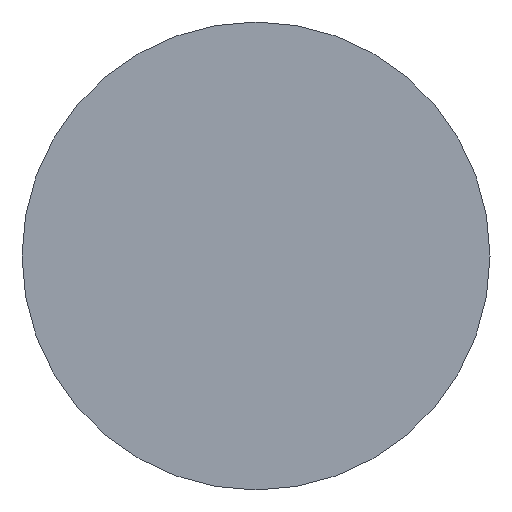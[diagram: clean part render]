
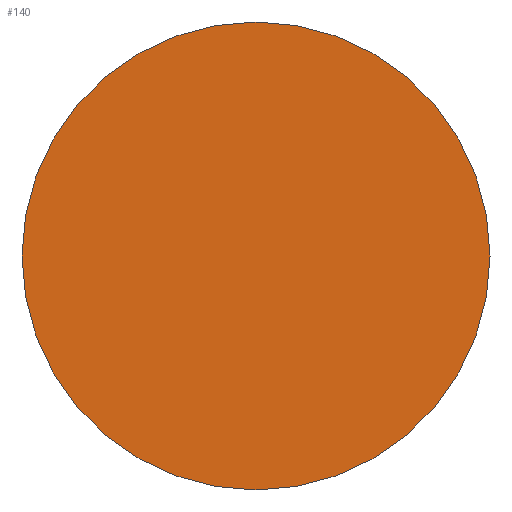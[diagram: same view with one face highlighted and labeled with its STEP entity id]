
A CAD part, left-side view. The second image highlights one B-rep face of the part: STEP entity #140.
In plain terms, the highlighted planar face has unit normal (-1, 0, 0).
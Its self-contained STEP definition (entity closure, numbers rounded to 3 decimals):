
#31 = CYLINDRICAL_SURFACE('',#32,1.8);
#32 = AXIS2_PLACEMENT_3D('',#33,#34,#35);
#33 = CARTESIAN_POINT('',(-8.7,-16.2,-1.5));
#34 = DIRECTION('',(1.,0.,0.));
#35 = DIRECTION('',(-0.,0.,1.));
#56 = VERTEX_POINT('',#57);
#57 = CARTESIAN_POINT('',(-8.7,-16.2,0.3));
#78 = EDGE_CURVE('',#56,#56,#79,.T.);
#79 = SURFACE_CURVE('',#80,(#85,#92),.PCURVE_S1.);
#80 = CIRCLE('',#81,1.8);
#81 = AXIS2_PLACEMENT_3D('',#82,#83,#84);
#82 = CARTESIAN_POINT('',(-8.7,-16.2,-1.5));
#83 = DIRECTION('',(1.,0.,0.));
#84 = DIRECTION('',(-0.,0.,1.));
#85 = PCURVE('',#31,#86);
#86 = DEFINITIONAL_REPRESENTATION('',(#87),#91);
#87 = LINE('',#88,#89);
#88 = CARTESIAN_POINT('',(0.,0.));
#89 = VECTOR('',#90,1.);
#90 = DIRECTION('',(1.,0.));
#91 = ( GEOMETRIC_REPRESENTATION_CONTEXT(2) 
PARAMETRIC_REPRESENTATION_CONTEXT() REPRESENTATION_CONTEXT('2D SPACE',''
  ) );
#92 = PCURVE('',#93,#98);
#93 = PLANE('',#94);
#94 = AXIS2_PLACEMENT_3D('',#95,#96,#97);
#95 = CARTESIAN_POINT('',(-8.7,-16.2,-1.5));
#96 = DIRECTION('',(1.,0.,0.));
#97 = DIRECTION('',(-0.,0.,1.));
#98 = DEFINITIONAL_REPRESENTATION('',(#99),#103);
#99 = CIRCLE('',#100,1.8);
#100 = AXIS2_PLACEMENT_2D('',#101,#102);
#101 = CARTESIAN_POINT('',(0.,0.));
#102 = DIRECTION('',(1.,0.));
#103 = ( GEOMETRIC_REPRESENTATION_CONTEXT(2) 
PARAMETRIC_REPRESENTATION_CONTEXT() REPRESENTATION_CONTEXT('2D SPACE',''
  ) );
#140 = ADVANCED_FACE('',(#141),#93,.F.);
#141 = FACE_BOUND('',#142,.T.);
#142 = EDGE_LOOP('',(#143));
#143 = ORIENTED_EDGE('',*,*,#78,.F.);
